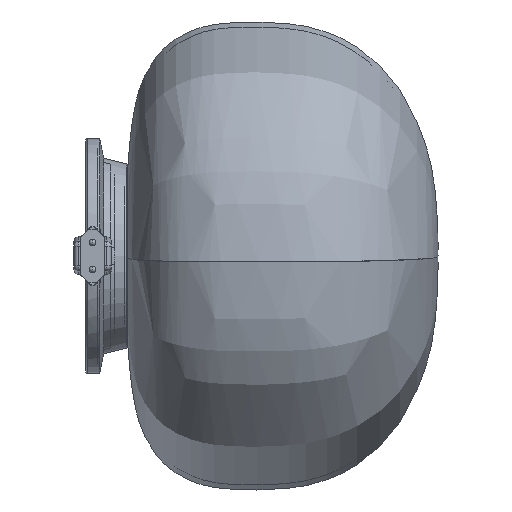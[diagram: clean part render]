
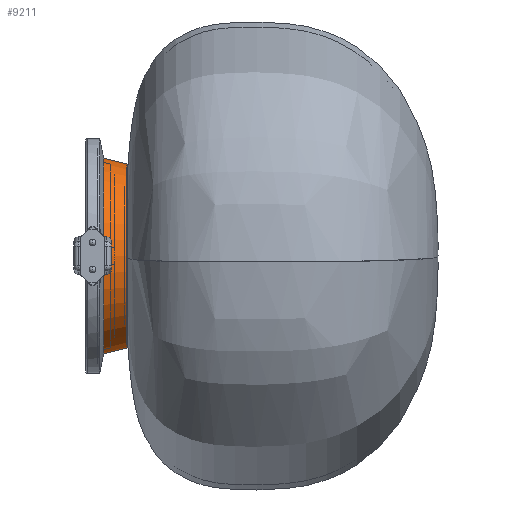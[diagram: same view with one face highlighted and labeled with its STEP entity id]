
A CAD part, left-side view. The second image highlights one B-rep face of the part: STEP entity #9211.
In plain terms, the highlighted conical face has half-angle 14.036 degrees and reference radius 55 mm.
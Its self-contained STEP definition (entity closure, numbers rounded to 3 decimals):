
#1006 = CARTESIAN_POINT ( 'NONE',  ( 0., -25., -55. ) ) ;
#3239 = DIRECTION ( 'NONE',  ( 0., 0., -1. ) ) ;
#3256 = EDGE_CURVE ( 'NONE', #5380, #26544, #6024, .T. ) ;
#3651 = CARTESIAN_POINT ( 'NONE',  ( 0., -25., -55. ) ) ;
#4150 = CARTESIAN_POINT ( 'NONE',  ( 0., -10.565, 0. ) ) ;
#4356 = ORIENTED_EDGE ( 'NONE', *, *, #11451, .T. ) ;
#4521 = EDGE_LOOP ( 'NONE', ( #29889, #11346, #4356, #17200 ) ) ;
#5269 = AXIS2_PLACEMENT_3D ( 'NONE', #17619, #5456, #3239 ) ;
#5380 = VERTEX_POINT ( 'NONE', #1006 ) ;
#5456 = DIRECTION ( 'NONE',  ( 0., -1., 0. ) ) ;
#6024 = LINE ( 'NONE', #3651, #6893 ) ;
#6103 = CARTESIAN_POINT ( 'NONE',  ( 0., -25., 0. ) ) ;
#6893 = VECTOR ( 'NONE', #13312, 1000. ) ;
#7204 = VECTOR ( 'NONE', #30699, 1000. ) ;
#8486 = FACE_OUTER_BOUND ( 'NONE', #4521, .T. ) ;
#8720 = LINE ( 'NONE', #14091, #7204 ) ;
#9211 = ADVANCED_FACE ( 'NONE', ( #8486 ), #27387, .T. ) ;
#9792 = EDGE_CURVE ( 'NONE', #28076, #26544, #20861, .T. ) ;
#10847 = CIRCLE ( 'NONE', #5269, 55. ) ;
#11346 = ORIENTED_EDGE ( 'NONE', *, *, #18786, .F. ) ;
#11441 = DIRECTION ( 'NONE',  ( 0., -1., 0. ) ) ;
#11451 = EDGE_CURVE ( 'NONE', #28721, #28076, #8720, .T. ) ;
#12511 = CARTESIAN_POINT ( 'NONE',  ( 0., -10.565, 58.609 ) ) ;
#12789 = CARTESIAN_POINT ( 'NONE',  ( 0., -25., 55. ) ) ;
#13312 = DIRECTION ( 'NONE',  ( 0., 0.97, -0.243 ) ) ;
#14091 = CARTESIAN_POINT ( 'NONE',  ( 0., -25., 55. ) ) ;
#15805 = AXIS2_PLACEMENT_3D ( 'NONE', #6103, #20189, #24941 ) ;
#17200 = ORIENTED_EDGE ( 'NONE', *, *, #9792, .T. ) ;
#17619 = CARTESIAN_POINT ( 'NONE',  ( 0., -25., 0. ) ) ;
#18786 = EDGE_CURVE ( 'NONE', #28721, #5380, #10847, .T. ) ;
#19677 = CARTESIAN_POINT ( 'NONE',  ( 0., -10.565, -58.609 ) ) ;
#20189 = DIRECTION ( 'NONE',  ( 0., 1., 0. ) ) ;
#20861 = CIRCLE ( 'NONE', #28840, 58.609 ) ;
#21089 = DIRECTION ( 'NONE',  ( 0., 0., -1. ) ) ;
#24941 = DIRECTION ( 'NONE',  ( 0., 0., 1. ) ) ;
#26544 = VERTEX_POINT ( 'NONE', #19677 ) ;
#27387 = CONICAL_SURFACE ( 'NONE', #15805, 55., 0.245 ) ;
#28076 = VERTEX_POINT ( 'NONE', #12511 ) ;
#28721 = VERTEX_POINT ( 'NONE', #12789 ) ;
#28840 = AXIS2_PLACEMENT_3D ( 'NONE', #4150, #11441, #21089 ) ;
#29889 = ORIENTED_EDGE ( 'NONE', *, *, #3256, .F. ) ;
#30699 = DIRECTION ( 'NONE',  ( 0., 0.97, 0.243 ) ) ;
